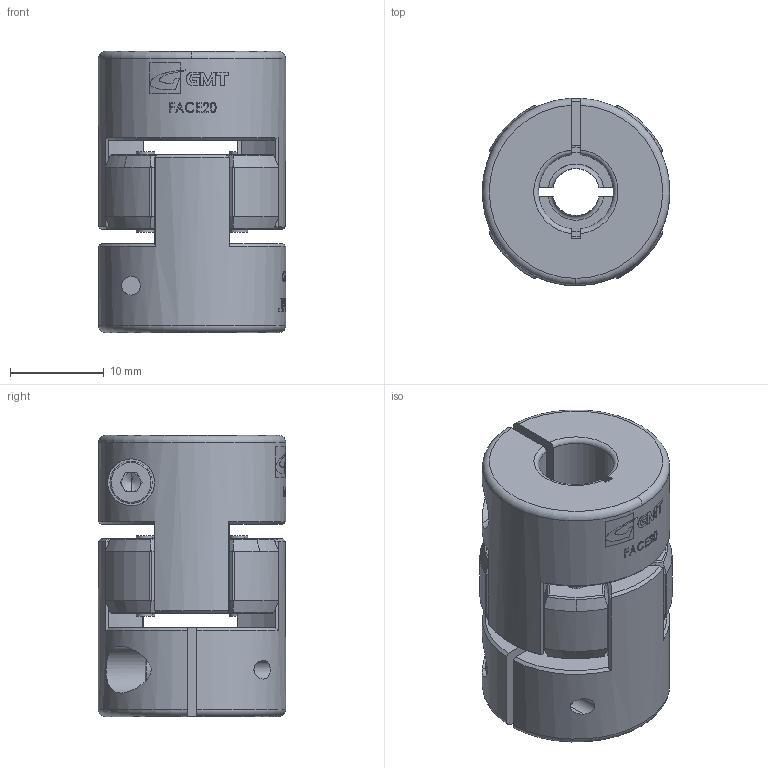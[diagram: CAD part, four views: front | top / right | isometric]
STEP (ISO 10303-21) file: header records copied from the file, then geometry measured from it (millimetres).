
FILE_DESCRIPTION (( 'STEP AP203' ), '1' );
FILE_NAME ('FACE20-B.R.W.STEP', '2008-04-04T06:31:32', ( '陳志豪' ), ( '高明鐵企業股份有限公司' ), 'SwSTEP 2.0', 'SolidWorks 2007', '' );
FILE_SCHEMA (( 'CONFIG_CONTROL_DESIGN' ));
Length unit declared in the file: millimetre
Products named in the file (1): FACE20-B.R.W
Bounding box: 20 x 20 x 30 mm (x, y, z)
Surface area: 4625.1 mm2 (no closed solid volume)
Topology: 0 solids, 7 shells, 355 faces, 1413 edges, 1005 vertices
Faces by surface type: plane 109, cylinder 83, bspline 69, cone 52, torus 42
Entity records: 19452 total; most frequent: CARTESIAN_POINT 9171, ORIENTED_EDGE 2163, DIRECTION 1701, EDGE_CURVE 1409, VERTEX_POINT 1005, AXIS2_PLACEMENT_3D 678, B_SPLINE_CURVE_WITH_KNOTS 657, EDGE_LOOP 395
